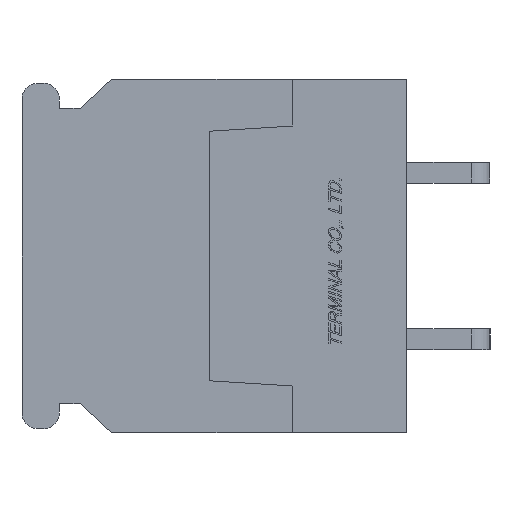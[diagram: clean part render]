
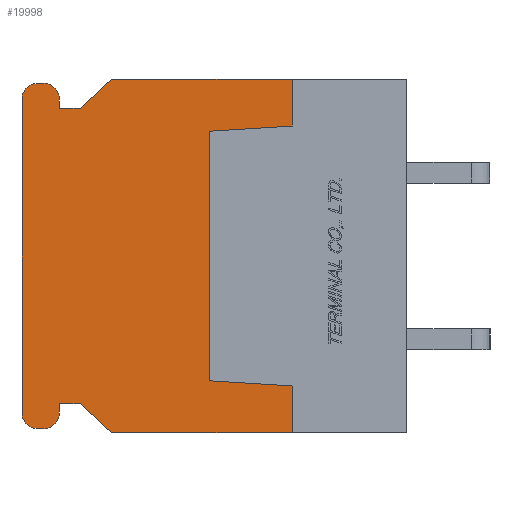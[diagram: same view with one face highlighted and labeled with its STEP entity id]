
A CAD part, left-side view. The second image highlights one B-rep face of the part: STEP entity #19998.
In plain terms, the highlighted planar face has unit normal (-1, 0, 0).
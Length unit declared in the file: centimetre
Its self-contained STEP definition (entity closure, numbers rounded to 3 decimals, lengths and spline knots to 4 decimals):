
#1187=CIRCLE('',#34209,0.075);
#1188=CIRCLE('',#34210,0.075);
#1189=CIRCLE('',#34211,0.075);
#1190=CIRCLE('',#34212,0.075);
#2479=VERTEX_POINT('',#30142);
#2480=VERTEX_POINT('',#30144);
#2481=VERTEX_POINT('',#30148);
#2482=VERTEX_POINT('',#30152);
#2483=VERTEX_POINT('',#30156);
#2484=VERTEX_POINT('',#30160);
#2542=VERTEX_POINT('',#30280);
#2598=VERTEX_POINT('',#30422);
#2827=VERTEX_POINT('',#31205);
#2828=VERTEX_POINT('',#31207);
#2829=VERTEX_POINT('',#31209);
#2830=VERTEX_POINT('',#31211);
#2831=VERTEX_POINT('',#31213);
#2832=VERTEX_POINT('',#31215);
#2833=VERTEX_POINT('',#31217);
#2834=VERTEX_POINT('',#31219);
#2835=VERTEX_POINT('',#31221);
#2836=VERTEX_POINT('',#31223);
#2837=VERTEX_POINT('',#31225);
#2838=VERTEX_POINT('',#31227);
#4470=VECTOR('',#23990,1.);
#4473=VECTOR('',#23994,1.);
#4475=VECTOR('',#23997,1.);
#4477=VECTOR('',#24000,1.);
#4479=VECTOR('',#24003,1.);
#4534=VECTOR('',#24068,1.);
#4603=VECTOR('',#24163,1.);
#4934=VECTOR('',#24812,1.);
#4935=VECTOR('',#24813,1.);
#4936=VECTOR('',#24814,1.);
#4937=VECTOR('',#24817,1.);
#4938=VECTOR('',#24820,1.);
#4939=VECTOR('',#24823,1.);
#4940=VECTOR('',#24826,1.);
#4941=VECTOR('',#24827,1.);
#4942=VECTOR('',#24828,1.);
#6658=LINE('',#30143,#4470);
#6661=LINE('',#30149,#4473);
#6663=LINE('',#30153,#4475);
#6665=LINE('',#30157,#4477);
#6667=LINE('',#30161,#4479);
#6722=LINE('',#30279,#4534);
#6791=LINE('',#30423,#4603);
#7122=LINE('',#31204,#4934);
#7123=LINE('',#31206,#4935);
#7124=LINE('',#31208,#4936);
#7125=LINE('',#31212,#4937);
#7126=LINE('',#31216,#4938);
#7127=LINE('',#31220,#4939);
#7128=LINE('',#31224,#4940);
#7129=LINE('',#31226,#4941);
#7130=LINE('',#31228,#4942);
#9468=EDGE_CURVE('',#2480,#2479,#6658,.T.);
#9471=EDGE_CURVE('',#2479,#2481,#6661,.T.);
#9473=EDGE_CURVE('',#2481,#2482,#6663,.T.);
#9475=EDGE_CURVE('',#2482,#2483,#6665,.T.);
#9477=EDGE_CURVE('',#2483,#2484,#6667,.T.);
#9536=EDGE_CURVE('',#2480,#2542,#6722,.T.);
#9609=EDGE_CURVE('',#2598,#2484,#6791,.T.);
#10004=EDGE_CURVE('',#2827,#2598,#7122,.T.);
#10005=EDGE_CURVE('',#2828,#2827,#7123,.T.);
#10006=EDGE_CURVE('',#2829,#2828,#7124,.T.);
#10007=EDGE_CURVE('',#2830,#2829,#1187,.T.);
#10008=EDGE_CURVE('',#2831,#2830,#7125,.T.);
#10009=EDGE_CURVE('',#2832,#2831,#1188,.T.);
#10010=EDGE_CURVE('',#2833,#2832,#7126,.T.);
#10011=EDGE_CURVE('',#2834,#2833,#1189,.T.);
#10012=EDGE_CURVE('',#2835,#2834,#7127,.T.);
#10013=EDGE_CURVE('',#2836,#2835,#1190,.T.);
#10014=EDGE_CURVE('',#2837,#2836,#7128,.T.);
#10015=EDGE_CURVE('',#2838,#2837,#7129,.T.);
#10016=EDGE_CURVE('',#2542,#2838,#7130,.T.);
#15387=ORIENTED_EDGE('',*,*,#9477,.T.);
#15388=ORIENTED_EDGE('',*,*,#9609,.F.);
#15389=ORIENTED_EDGE('',*,*,#10004,.F.);
#15390=ORIENTED_EDGE('',*,*,#10005,.F.);
#15391=ORIENTED_EDGE('',*,*,#10006,.F.);
#15392=ORIENTED_EDGE('',*,*,#10007,.F.);
#15393=ORIENTED_EDGE('',*,*,#10008,.F.);
#15394=ORIENTED_EDGE('',*,*,#10009,.F.);
#15395=ORIENTED_EDGE('',*,*,#10010,.F.);
#15396=ORIENTED_EDGE('',*,*,#10011,.F.);
#15397=ORIENTED_EDGE('',*,*,#10012,.F.);
#15398=ORIENTED_EDGE('',*,*,#10013,.F.);
#15399=ORIENTED_EDGE('',*,*,#10014,.F.);
#15400=ORIENTED_EDGE('',*,*,#10015,.F.);
#15401=ORIENTED_EDGE('',*,*,#10016,.F.);
#15402=ORIENTED_EDGE('',*,*,#9536,.F.);
#15403=ORIENTED_EDGE('',*,*,#9468,.T.);
#15404=ORIENTED_EDGE('',*,*,#9471,.T.);
#15405=ORIENTED_EDGE('',*,*,#9473,.T.);
#15406=ORIENTED_EDGE('',*,*,#9475,.T.);
#17606=EDGE_LOOP('',(#15387,#15388,#15389,#15390,#15391,#15392,#15393,#15394,
#15395,#15396,#15397,#15398,#15399,#15400,#15401,#15402,#15403,#15404,#15405,
#15406));
#18862=FACE_BOUND('',#17606,.T.);
#19998=ADVANCED_FACE('',(#18862),#20874,.F.);
#20874=PLANE('',#34208);
#23990=DIRECTION('',(0.,0.,1.));
#23994=DIRECTION('',(0.,0.998,0.062));
#23997=DIRECTION('',(0.,0.,1.));
#24000=DIRECTION('',(0.,-0.998,0.062));
#24003=DIRECTION('',(0.,0.,1.));
#24068=DIRECTION('',(0.,1.,0.));
#24163=DIRECTION('',(0.,-1.,0.));
#24811=DIRECTION('',(1.,0.,0.));
#24812=DIRECTION('',(0.,-0.731,0.682));
#24813=DIRECTION('',(0.,-1.,0.));
#24814=DIRECTION('',(0.,0.,-1.));
#24815=DIRECTION('',(1.,0.,0.));
#24816=DIRECTION('',(0.,0.,-0.075));
#24817=DIRECTION('',(0.,-1.,0.));
#24818=DIRECTION('',(1.,0.,0.));
#24819=DIRECTION('',(0.,0.,-0.075));
#24820=DIRECTION('',(0.,0.,1.));
#24821=DIRECTION('',(1.,0.,0.));
#24822=DIRECTION('',(0.,0.,-0.075));
#24823=DIRECTION('',(0.,1.,0.));
#24824=DIRECTION('',(1.,0.,0.));
#24825=DIRECTION('',(0.,0.,-0.075));
#24826=DIRECTION('',(0.,0.,-1.));
#24827=DIRECTION('',(0.,1.,0.));
#24828=DIRECTION('',(0.,0.731,0.682));
#30142=CARTESIAN_POINT('',(-1.,0.55,-0.625));
#30143=CARTESIAN_POINT('',(-1.,0.55,-0.3687));
#30144=CARTESIAN_POINT('',(-1.,0.55,-0.85));
#30148=CARTESIAN_POINT('',(-1.,0.95,-0.6));
#30149=CARTESIAN_POINT('',(-1.,0.8629,-0.6054));
#30152=CARTESIAN_POINT('',(-1.,0.95,0.6));
#30153=CARTESIAN_POINT('',(-1.,0.95,0.));
#30156=CARTESIAN_POINT('',(-1.,0.55,0.625));
#30157=CARTESIAN_POINT('',(-1.,0.8629,0.6054));
#30160=CARTESIAN_POINT('',(-1.,0.55,0.85));
#30161=CARTESIAN_POINT('',(-1.,0.55,0.3687));
#30279=CARTESIAN_POINT('',(-1.,0.,-0.85));
#30280=CARTESIAN_POINT('',(-1.,1.42,-0.85));
#30422=CARTESIAN_POINT('',(-1.,1.42,0.85));
#30423=CARTESIAN_POINT('',(-1.,1.42,0.85));
#31203=CARTESIAN_POINT('',(-1.,0.9383,0.));
#31204=CARTESIAN_POINT('',(-1.,1.57,0.71));
#31205=CARTESIAN_POINT('',(-1.,1.57,0.71));
#31206=CARTESIAN_POINT('',(-1.,1.67,0.71));
#31207=CARTESIAN_POINT('',(-1.,1.67,0.71));
#31208=CARTESIAN_POINT('',(-1.,1.67,0.755));
#31209=CARTESIAN_POINT('',(-1.,1.67,0.755));
#31210=CARTESIAN_POINT('',(-1.,1.745,0.755));
#31211=CARTESIAN_POINT('',(-1.,1.745,0.83));
#31212=CARTESIAN_POINT('',(-1.,1.775,0.83));
#31213=CARTESIAN_POINT('',(-1.,1.775,0.83));
#31214=CARTESIAN_POINT('',(-1.,1.775,0.755));
#31215=CARTESIAN_POINT('',(-1.,1.85,0.755));
#31216=CARTESIAN_POINT('',(-1.,1.85,-0.755));
#31217=CARTESIAN_POINT('',(-1.,1.85,-0.755));
#31218=CARTESIAN_POINT('',(-1.,1.775,-0.755));
#31219=CARTESIAN_POINT('',(-1.,1.775,-0.83));
#31220=CARTESIAN_POINT('',(-1.,1.745,-0.83));
#31221=CARTESIAN_POINT('',(-1.,1.745,-0.83));
#31222=CARTESIAN_POINT('',(-1.,1.745,-0.755));
#31223=CARTESIAN_POINT('',(-1.,1.67,-0.755));
#31224=CARTESIAN_POINT('',(-1.,1.67,-0.71));
#31225=CARTESIAN_POINT('',(-1.,1.67,-0.71));
#31226=CARTESIAN_POINT('',(-1.,1.57,-0.71));
#31227=CARTESIAN_POINT('',(-1.,1.57,-0.71));
#31228=CARTESIAN_POINT('',(-1.,1.42,-0.85));
#34208=AXIS2_PLACEMENT_3D('',#31203,#24811,$);
#34209=AXIS2_PLACEMENT_3D('',#31210,#24815,#24816);
#34210=AXIS2_PLACEMENT_3D('',#31214,#24818,#24819);
#34211=AXIS2_PLACEMENT_3D('',#31218,#24821,#24822);
#34212=AXIS2_PLACEMENT_3D('',#31222,#24824,#24825);
